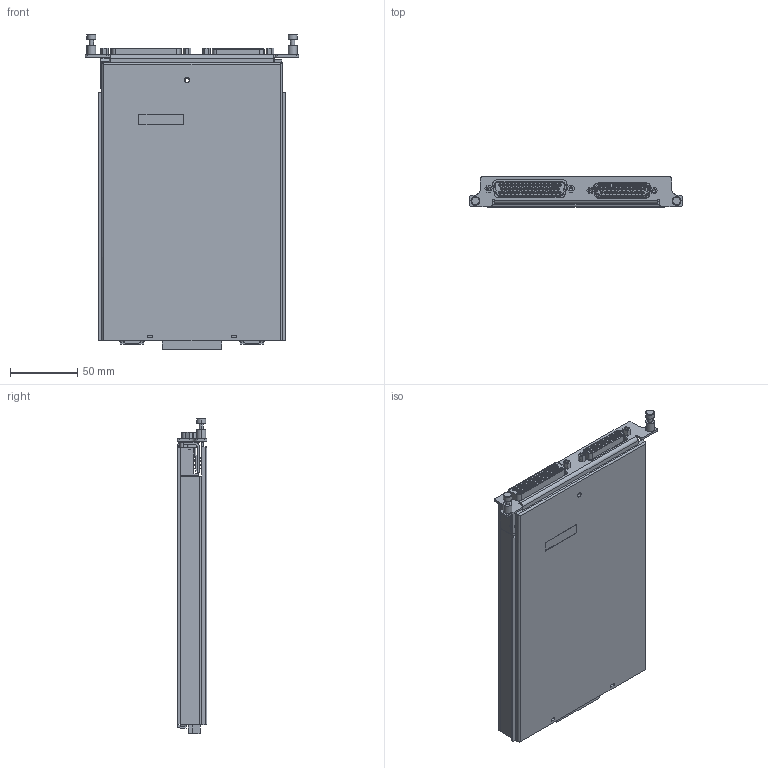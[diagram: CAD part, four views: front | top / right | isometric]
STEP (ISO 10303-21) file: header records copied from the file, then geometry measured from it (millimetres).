
FILE_DESCRIPTION((''),'2;1');
FILE_NAME('7701-SALES_ASM','2020-08-07T09:49:29',('dking'),('Keithley Instruments'),'CREO PARAMETRIC BY PTC INC, 2019080','CREO PARAMETRIC BY PTC INC, 2019080','');
FILE_SCHEMA(('AUTOMOTIVE_DESIGN { 1 0 10303 214 1 1 1 1 }'));
Length unit declared in the file: inch
Products named in the file (8): 7709-303; CS-484; CS-1061-1; 7703-301; 7703-302; CS-1065; CS-725; 7701-SALES_ASM
Assembly tree (10 placements, depth 2):
  7701-SALES_ASM
    7709-303
    CS-484
    CS-1061-1
    7703-301
    7703-302
    CS-1065
    CS-725  x4
Bounding box: 157.99 x 22.12 x 233.71 mm (x, y, z)
Volume: 165328.3 mm3; surface area: 165487.4 mm2
Topology: 10 solids, 10 shells, 2935 faces, 7825 edges, 5286 vertices
Faces by surface type: plane 1627, cylinder 1028, cone 168, torus 110, bspline 2
Entity records: 133048 total; most frequent: DIRECTION 16238, CARTESIAN_POINT 15978, ORIENTED_EDGE 14550, PRESENTATION_STYLE_ASSIGNMENT 10123, STYLED_ITEM 10123, CURVE_STYLE 7884, EDGE_CURVE 7275, AXIS2_PLACEMENT_3D 5411
